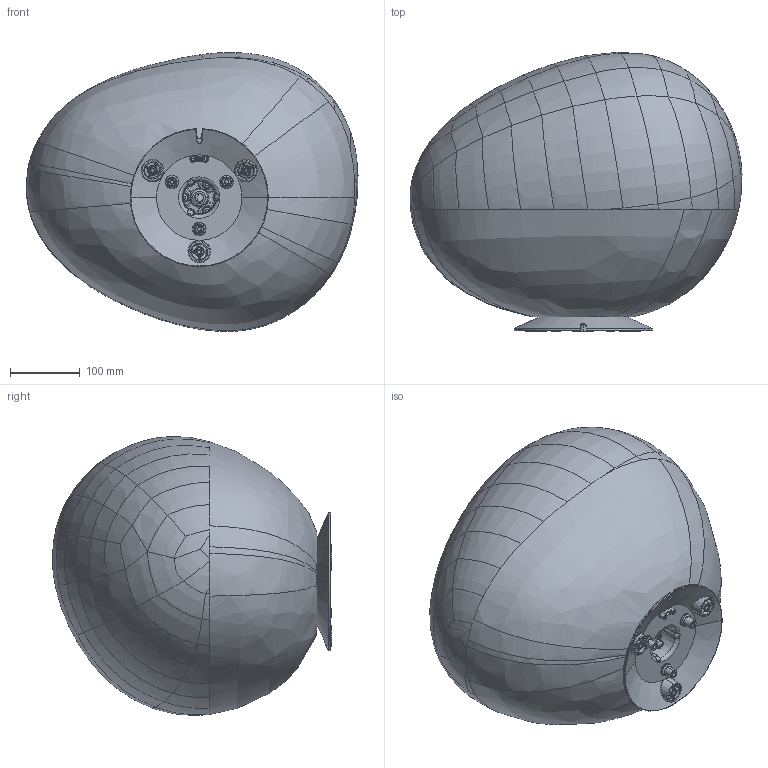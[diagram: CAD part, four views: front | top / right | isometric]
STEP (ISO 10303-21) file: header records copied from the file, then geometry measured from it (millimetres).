
FILE_DESCRIPTION (( 'STEP AP203' ), '1' );
FILE_NAME ('218_GRANDE_OF_PL_3D.STEP', '2021-04-07T14:30:40', ( '' ), ( '' ), 'SwSTEP 2.0', 'SolidWorks 2021', '' );
FILE_SCHEMA (( 'CONFIG_CONTROL_DESIGN' ));
Products named in the file (1): 218_GRANDE_OF_PL_3D
Bounding box: 475.92 x 400.2 x 399.93 mm (x, y, z)
Volume: 2408951.3 mm3; surface area: 1200569.1 mm2
Topology: 2 solids, 2 shells, 1221 faces, 2900 edges, 1686 vertices
Faces by surface type: bspline 606, plane 191, torus 142, cone 138, sphere 87, cylinder 57
Entity records: 498283 total; most frequent: CARTESIAN_POINT 475413, ORIENTED_EDGE 5630, DIRECTION 3382, EDGE_CURVE 2815, VERTEX_POINT 1663, AXIS2_PLACEMENT_3D 1562, B_SPLINE_CURVE_WITH_KNOTS 1549, EDGE_LOOP 1294
